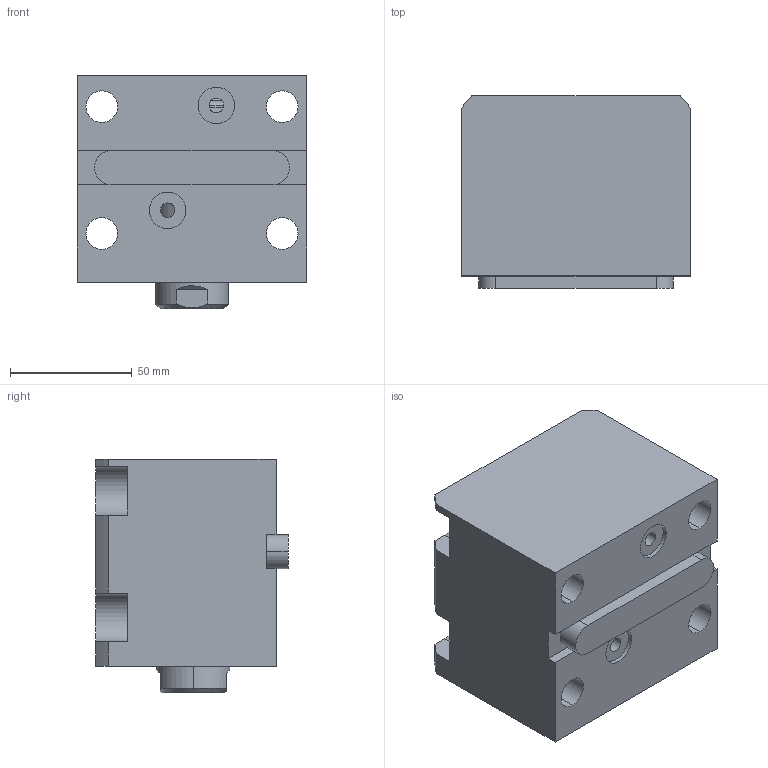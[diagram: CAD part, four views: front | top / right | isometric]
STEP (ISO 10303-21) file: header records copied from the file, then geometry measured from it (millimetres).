
FILE_DESCRIPTION (( 'STEP AP203' ), '1' );
FILE_NAME ('CHTB-LAM50-25N.STEP', '2018-05-23T10:09:59', ( '' ), ( '' ), 'SwSTEP 2.0', 'SolidWorks 2015', '' );
FILE_SCHEMA (( 'CONFIG_CONTROL_DESIGN' ));
Length unit declared in the file: millimetre
Products named in the file (4): 活塞杆LA50-25N; CHTB-LAM50-25N; CHTM-SDMA50QG; 掛极LAM50-25N
Assembly tree (3 placements, depth 2):
  CHTB-LAM50-25N
    掛极LAM50-25N
    活塞杆LA50-25N
    CHTM-SDMA50QG
Bounding box: 94 x 79 x 96 mm (x, y, z)
Volume: 505723.9 mm3; surface area: 97677.7 mm2
Topology: 3 solids, 3 shells, 192 faces, 524 edges, 347 vertices
Faces by surface type: cylinder 96, plane 51, torus 16, cone 15, bspline 14
Entity records: 11011 total; most frequent: CARTESIAN_POINT 5956, ORIENTED_EDGE 1036, DIRECTION 908, EDGE_CURVE 518, AXIS2_PLACEMENT_3D 356, VERTEX_POINT 347, EDGE_LOOP 221, LINE 196
